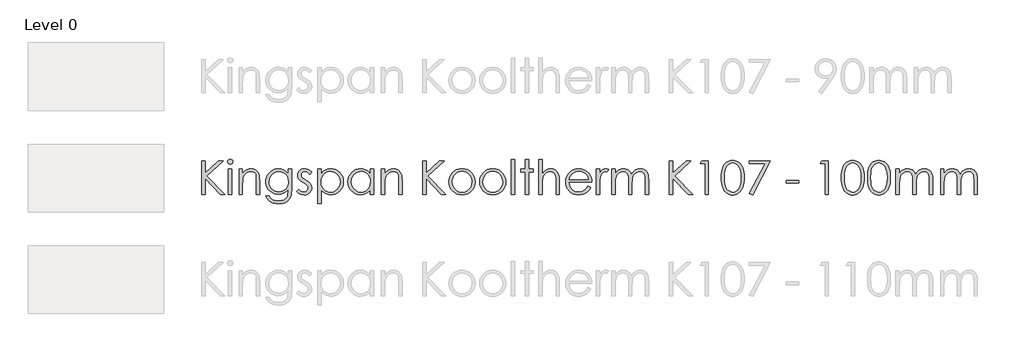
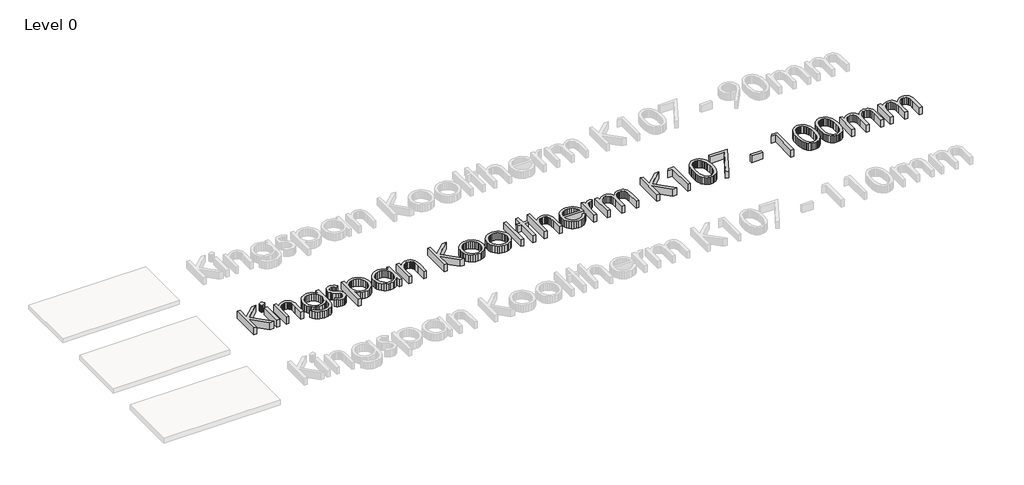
# One storey, part 5 of 13: 1 proxy.
"""IFC4 building model written with IfcOpenShell, lengths in millimetres."""

from ifc_helpers import new_model, si_unit, origin, origin_with_axes, place, context, project, spatial, polyline, outline, extrude, element, save

model = new_model("IFC4")

# Units and contexts
model_context = context("Model", 3, world=origin())
ifc_project = project(units=[si_unit("LENGTHUNIT", "METRE", prefix="MILLI")], contexts=[model_context])

# Site, building, storey
site = spatial("IfcSite", under=ifc_project)
building = spatial("IfcBuilding", under=site)
storey = spatial("IfcBuildingStorey", under=building, Name="Level 0", Elevation=0.0)

# Proxy
placement = place(None, origin())
element("IfcBuildingElementProxy", 1, Name="600mm KI_CenturyGothic", ObjectType="600mm KI_CenturyGothic", at=placement, inside=storey, context=model_context, shape_type="SweptSolid", body=[
    extrude(outline(polyline([(-3852.2663848, -8499.1034017), (-3792.944575, -8499.1034017), (-3792.944575, -8718.316027), (-3555.1938841, -8499.1034017), (-3471.6181051, -8499.1034017), (-3760.9664119, -8766.0515459), (-3441.9572002, -9092.3214999), (-3520.8984627, -9092.3214999), (-3792.944575, -8814.0960325), (-3792.944575, -9092.3214999), (-3852.2663848, -9092.3214999), (-3852.2663848, -8499.1034017)])), origin_with_axes(), (0.0, 0.0, 1.0), 150.0),
    extrude(outline(polyline([(-3348.1854852, -8469.4424967), (-3329.145347, -8472.7252792), (-3313.1176445, -8482.5736265), (-3302.226531, -8497.0178693), (-3298.5961598, -8514.088338), (-3302.226531, -8530.9270809), (-3313.1176445, -8545.2940817), (-3329.145347, -8555.142429), (-3348.1854852, -8558.4252115), (-3366.9938975, -8555.142429), (-3382.9443581, -8545.2940817), (-3393.8354717, -8530.9270809), (-3397.4658428, -8514.088338), (-3393.8354717, -8497.0178693), (-3382.9443581, -8482.5736265), (-3366.9938975, -8472.7252792), (-3348.1854852, -8469.4424967)])), origin_with_axes(), (0.0, 0.0, 1.0), 150.0),
    extrude(outline(polyline([(-3377.6919062, -8647.4079262), (-3318.3700964, -8647.4079262), (-3318.3700964, -9092.3214999), (-3377.6919062, -9092.3214999), (-3377.6919062, -8647.4079262)])), origin_with_axes(), (0.0, 0.0, 1.0), 150.0),
    extrude(outline(polyline([(-3189.8395084, -8647.4079262), (-3130.5176986, -8647.4079262), (-3130.5176986, -8726.5036726), (-3096.9946967, -8686.9944204), (-3060.0730495, -8659.303185), (-3019.7141359, -8642.9665147), (-2975.879335, -8637.5209579), (-2953.4357238, -8639.0995901), (-2932.2955704, -8643.8354865), (-2912.4588747, -8651.7286472), (-2893.9256368, -8662.7790723), (-2877.212412, -8676.5039994), (-2862.835756, -8692.4206667), (-2841.0921499, -8730.8292213), (-2833.6238199, -8755.2087086), (-2828.2892984, -8785.5551357), (-2824.0216812, -8864.1488095), (-2824.0216812, -9092.3214999), (-2883.343491, -9092.3214999), (-2883.343491, -8879.1337458), (-2883.343491, -8776.092998), (-2884.7290183, -8755.2956057), (-2889.8125035, -8737.2403023), (-2898.2849788, -8721.9270877), (-2910.1464442, -8709.355962), (-2924.7403432, -8699.5558909), (-2941.4101193, -8692.5558401), (-2980.977303, -8686.9557994), (-3005.3471351, -8689.1137461), (-3028.4038541, -8695.5875862), (-3050.1474602, -8706.3773197), (-3070.5779533, -8721.4829466), (-3088.6622225, -8739.7651482), (-3103.3671568, -8760.084606), (-3114.6927562, -8782.44132), (-3122.6390208, -8806.8352901), (-3128.5480292, -8853.9142525), (-3130.5176986, -8928.4141035), (-3130.5176986, -9092.3214999), (-3189.8395084, -9092.3214999), (-3189.8395084, -8647.4079262)])), origin_with_axes(), (0.0, 0.0, 1.0), 150.0),
    extrude(outline(polyline([(-2319.7862977, -8647.4079262), (-2260.4644879, -8647.4079262), (-2260.4644879, -8998.395301), (-2264.5196897, -9078.6496765), (-2269.588692, -9109.4499001), (-2276.6852953, -9134.0321474), (-2289.9371156, -9162.6454585), (-2307.2924139, -9187.7732271), (-2328.7511904, -9209.4154531), (-2354.3134448, -9227.5721366), (-2383.3226209, -9241.9343098), (-2415.122162, -9252.1930049), (-2449.7120682, -9258.348222), (-2487.0923395, -9260.3999611), (-2541.0458345, -9256.3833802), (-2589.206184, -9244.3336376), (-2630.260275, -9225.5059147), (-2662.8949946, -9201.1553932), (-2690.2000204, -9167.8061856), (-2715.2650299, -9121.9824048), (-2655.94322, -9121.9824048), (-2642.4355358, -9143.151524), (-2627.0933555, -9161.3951046), (-2609.9166791, -9176.7131468), (-2590.9055067, -9189.1056506), (-2569.7894914, -9198.6691682), (-2546.2982864, -9205.5002523), (-2492.1903075, -9210.9651195), (-2438.5071593, -9205.6354257), (-2415.083541, -9198.9733084), (-2393.93856, -9189.6463441), (-2359.6624492, -9165.6047903), (-2336.8567664, -9136.1176798), (-2329.3884364, -9117.4782342), (-2324.0539149, -9093.7697863), (-2319.7862977, -9031.1458835), (-2319.7862977, -9008.4367532), (-2354.757586, -9044.2190818), (-2396.6420279, -9070.6165148), (-2443.392712, -9086.8952536), (-2492.9627269, -9092.3214999), (-2522.4063889, -9090.4242447), (-2550.9521133, -9084.7324793), (-2578.5999001, -9075.2462036), (-2605.3497494, -9061.9654175), (-2630.1540674, -9045.4742634), (-2651.9652601, -9026.3568832), (-2670.7833277, -9004.6132772), (-2686.6082702, -8980.2434451), (-2699.1456025, -8953.9280817), (-2708.1008399, -8926.3478816), (-2713.4739824, -8897.5028447), (-2715.2650299, -8867.392971), (-2713.3967404, -8837.1044753), (-2707.7918722, -8807.8780563), (-2698.4504251, -8779.713714), (-2685.3723991, -8752.6114483), (-2668.9971079, -8727.4257483), (-2649.7638648, -8705.0111029), (-2627.67267, -8685.367512), (-2602.7235235, -8668.4949758), (-2575.9833294, -8654.943843), (-2548.5189922, -8645.2644624), (-2520.3305117, -8639.456834), (-2491.4178881, -8637.5209579), (-2444.5320306, -8642.4644421), (-2400.8903346, -8657.2948945), (-2359.6045177, -8683.8661218), (-2319.7862977, -8724.0319306), (-2319.7862977, -8647.4079262)]), holes=[polyline([(-2484.1571458, -8686.9557994), (-2529.0154023, -8692.9806707), (-2570.5908765, -8711.0552847), (-2606.2187212, -8739.7699758), (-2633.2340897, -8777.7150788), (-2650.2659375, -8821.9940208), (-2655.94322, -8869.7102292), (-2653.0080263, -8905.6229036), (-2644.2024452, -8938.2817613), (-2629.5264766, -8967.6868023), (-2608.9801206, -8993.8380266), (-2583.7606272, -9015.296803), (-2555.0652466, -9030.6245004), (-2522.8939786, -9039.8211189), (-2487.2468234, -9042.8866584), (-2451.3244937, -9039.845257), (-2419.1001219, -9030.7210528), (-2390.573708, -9015.5140459), (-2365.7452519, -8994.2242363), (-2345.6382095, -8967.9812872), (-2331.2760363, -8937.9148621), (-2322.6587323, -8904.024961), (-2319.7862977, -8866.3115838), (-2325.0773706, -8817.6105407), (-2340.9505892, -8774.3936754), (-2366.4983608, -8738.1672056), (-2400.8130926, -8710.4373492), (-2440.9982119, -8692.8261869), (-2484.1571458, -8686.9557994)])]), origin_with_axes(), (0.0, 0.0, 1.0), 150.0),
    extrude(outline(polyline([(-1904.5336289, -8698.6965743), (-1940.9918246, -8736.390641), (-1962.9575012, -8714.7628978), (-1984.6721416, -8699.3145098), (-2006.1357456, -8690.045477), (-2027.3483133, -8686.9557994), (-2052.181597, -8691.6289368), (-2073.2300256, -8705.6483489), (-2087.5970264, -8725.8857371), (-2092.3860267, -8749.212803), (-2088.4466878, -8770.7633042), (-2076.628671, -8791.2324183), (-2052.0657341, -8813.400855), (-2010.2006027, -8839.122421), (-1958.3326401, -8871.9888664), (-1939.8428507, -8887.8138088), (-1926.315856, -8903.2332311), (-1909.9791857, -8935.9065716), (-1904.5336289, -8972.4420092), (-1906.9474396, -8998.5884059), (-1914.1888714, -9022.6492701), (-1926.2579245, -9044.624602), (-1943.1545989, -9064.5144015), (-1963.6719892, -9081.0055557), (-1986.6031901, -9092.7849515), (-2011.9482016, -9099.852589), (-2039.7070237, -9102.2084682), (-2077.4397114, -9098.3270607), (-2113.3958344, -9086.6828383), (-2145.4512394, -9068.2027042), (-2171.4817731, -9043.8135617), (-2135.7959969, -9003.3387852), (-2114.0041146, -9024.9665283), (-2091.5749863, -9040.4149163), (-2068.5086121, -9049.6839491), (-2044.8049918, -9052.7736267), (-2013.637869, -9047.1349651), (-1987.4914724, -9030.2189802), (-1969.7644472, -9005.6560434), (-1963.8554388, -8977.0765256), (-1967.7561567, -8953.2860081), (-1979.4583106, -8932.2762005), (-2005.0253927, -8910.5712154), (-2050.2119275, -8883.7682622), (-2099.762632, -8853.1032121), (-2117.441381, -8837.9444814), (-2130.3890611, -8822.9016136), (-2146.3781427, -8790.7689666), (-2151.7078365, -8754.310771), (-2149.5305794, -8730.2643896), (-2142.9988078, -8708.3325063), (-2132.1125219, -8688.5151211), (-2116.8717217, -8670.812234), (-2098.309518, -8656.2473007), (-2077.4590218, -8645.8437769), (-2054.3202332, -8639.6016627), (-2028.8931521, -8637.5209579), (-1997.9481, -8641.3444339), (-1966.9064954, -8652.814862), (-1935.7683384, -8671.9322421), (-1904.5336289, -8698.6965743)])), origin_with_axes(), (0.0, 0.0, 1.0), 150.0),
    extrude(outline(polyline([(-1795.7769776, -8647.4079262), (-1736.4551678, -8647.4079262), (-1736.4551678, -8728.5119631), (-1700.9238754, -8688.2689124), (-1660.4490989, -8659.9211205), (-1614.9922173, -8643.1209986), (-1564.5146096, -8637.5209579), (-1520.0618732, -8641.7596094), (-1478.9305402, -8654.4755637), (-1441.1206107, -8675.668821), (-1406.6320845, -8705.3393811), (-1377.9077381, -8740.9768811), (-1357.3903478, -8780.070958), (-1345.0799137, -8822.6216116), (-1340.9764356, -8868.628842), (-1345.0412927, -8915.5291824), (-1357.235864, -8958.7508754), (-1377.5601494, -8998.293921), (-1406.014149, -9034.1583192), (-1440.2130179, -9063.9302594), (-1477.7719111, -9085.1959309), (-1518.6908288, -9097.9553339), (-1562.9697708, -9102.2084682), (-1612.6170277, -9096.743601), (-1658.0545988, -9080.3489992), (-1699.3211052, -9053.1019049), (-1736.4551678, -9015.07956), (-1736.4551678, -9250.5129928), (-1795.7769776, -9250.5129928), (-1795.7769776, -8647.4079262)]), holes=[polyline([(-1568.5311905, -8686.9557994), (-1602.5852307, -8690.2530647), (-1633.8392507, -8700.1448607), (-1662.2932503, -8716.6311872), (-1687.9472295, -8739.7120444), (-1709.1694525, -8767.6977647), (-1724.3281832, -8798.8986808), (-1733.4234216, -8833.3147926), (-1736.4551678, -8870.9461002), (-1731.048232, -8919.8016272), (-1714.8274246, -8963.4819442), (-1688.5265441, -9000.3263495), (-1652.8793888, -9028.6741414), (-1611.4390881, -9046.7487554), (-1567.7587711, -9052.7736267), (-1525.0632888, -9046.7101344), (-1485.0326535, -9028.5196576), (-1450.2544701, -8999.4187567), (-1423.3163435, -8960.6239924), (-1406.05277, -8915.9588407), (-1400.2982454, -8869.2467775), (-1405.9948385, -8822.3029886), (-1423.0846177, -8777.8695627), (-1449.8103289, -8739.5189395), (-1484.414718, -8710.8235589), (-1524.7157001, -8692.9227393), (-1568.5311905, -8686.9557994)])]), origin_with_axes(), (0.0, 0.0, 1.0), 150.0),
    extrude(outline(polyline([(-807.0801472, -8647.4079262), (-807.0801472, -9092.3214999), (-866.401957, -9092.3214999), (-866.401957, -9016.4699149), (-903.4780882, -9054.3184655), (-944.8797679, -9081.0441767), (-990.4525125, -9096.9173953), (-1040.0418379, -9102.2084682), (-1084.3159523, -9097.9553339), (-1125.2203871, -9085.1959309), (-1162.7551422, -9063.9302594), (-1196.9202178, -9034.1583192), (-1225.340424, -8998.293921), (-1245.6405713, -8958.7508754), (-1257.8206597, -8915.5291824), (-1261.8806892, -8868.628842), (-1257.7820388, -8822.6216116), (-1245.4860875, -8780.070958), (-1224.9928353, -8740.9768811), (-1196.3022822, -8705.3393811), (-1161.8475494, -8675.668821), (-1124.061758, -8654.4755637), (-1082.9449079, -8641.7596094), (-1038.4969991, -8637.5209579), (-987.7490446, -8643.1209986), (-942.0990581, -8659.9211205), (-921.2051134, -8672.6081091), (-901.6242816, -8688.2689124), (-866.401957, -8728.5119631), (-866.401957, -8647.4079262), (-807.0801472, -8647.4079262)]), holes=[polyline([(-1034.3259343, -8686.9557994), (-1078.1414247, -8692.9227393), (-1118.4424068, -8710.8235589), (-1153.0467959, -8739.5189395), (-1179.7725071, -8777.8695627), (-1196.8622863, -8822.3029886), (-1202.5588794, -8869.2467775), (-1196.8043548, -8915.9588407), (-1179.5407813, -8960.6239924), (-1152.6026548, -8999.4187567), (-1117.8244713, -9028.5196576), (-1077.6779731, -9046.7101344), (-1034.6349021, -9052.7736267), (-991.0125165, -9046.7487554), (-949.7460102, -9028.6741414), (-914.2726493, -9000.3263495), (-888.0297002, -8963.4819442), (-871.8088928, -8919.8016272), (-866.401957, -8870.9461002), (-869.4337032, -8833.3147926), (-878.5289416, -8798.8986808), (-893.6876723, -8767.6977647), (-914.9098953, -8739.7120444), (-940.5638746, -8716.6311872), (-969.0178742, -8700.1448607), (-1000.2718941, -8690.2530647), (-1034.3259343, -8686.9557994)])]), origin_with_axes(), (0.0, 0.0, 1.0), 150.0),
    extrude(outline(polyline([(-668.662591, -8647.4079262), (-609.3407811, -8647.4079262), (-609.3407811, -8726.5036726), (-575.8177792, -8686.9944204), (-538.896132, -8659.303185), (-498.5372184, -8642.9665147), (-454.7024175, -8637.5209579), (-432.2588064, -8639.0995901), (-411.1186529, -8643.8354865), (-391.2819572, -8651.7286472), (-372.7487193, -8662.7790723), (-356.0354946, -8676.5039994), (-341.6588385, -8692.4206667), (-319.9152324, -8730.8292213), (-312.4469024, -8755.2087086), (-307.1123809, -8785.5551357), (-302.8447637, -8864.1488095), (-302.8447637, -9092.3214999), (-362.1665735, -9092.3214999), (-362.1665735, -8879.1337458), (-362.1665735, -8776.092998), (-363.5521008, -8755.2956057), (-368.635586, -8737.2403023), (-377.1080613, -8721.9270877), (-388.9695267, -8709.355962), (-403.5634257, -8699.5558909), (-420.2332018, -8692.5558401), (-459.8003855, -8686.9557994), (-484.1702176, -8689.1137461), (-507.2269366, -8695.5875862), (-528.9705427, -8706.3773197), (-549.4010358, -8721.4829466), (-567.485305, -8739.7651482), (-582.1902393, -8760.084606), (-593.5158387, -8782.44132), (-601.4621033, -8806.8352901), (-607.3711117, -8853.9142525), (-609.3407811, -8928.4141035), (-609.3407811, -9092.3214999), (-668.662591, -9092.3214999), (-668.662591, -8647.4079262)])), origin_with_axes(), (0.0, 0.0, 1.0), 150.0),
    extrude(outline(polyline([(62.9730635, -8499.1034017), (122.2948734, -8499.1034017), (122.2948734, -8718.316027), (360.0455643, -8499.1034017), (443.6213432, -8499.1034017), (154.2730365, -8766.0515459), (473.2822481, -9092.3214999), (394.3409856, -9092.3214999), (122.2948734, -8814.0960325), (122.2948734, -9092.3214999), (62.9730635, -9092.3214999), (62.9730635, -8499.1034017)])), origin_with_axes(), (0.0, 0.0, 1.0), 150.0),
    extrude(outline(polyline([(760.1588128, -8637.5209579), (809.4681362, -8642.1458191), (854.3553585, -8656.0204025), (894.8204798, -8679.1447083), (930.8635, -8711.5187363), (957.7630055, -8746.7507161), (976.9769381, -8785.091684), (988.5052976, -8826.54164), (992.3480841, -8871.1005841), (988.283227, -8915.9153921), (976.0886558, -8957.8239721), (955.7643703, -8996.8263241), (927.3103707, -9032.9224481), (892.4742558, -9063.2350819), (853.0036246, -9084.8869632), (808.8984769, -9097.8780919), (760.1588128, -9102.2084682), (711.2839754, -9097.8780919), (667.0822753, -9084.8869632), (627.5537126, -9063.2350819), (592.6982872, -9032.9224481), (564.2442876, -8996.8263241), (543.9200022, -8957.8239721), (531.7254309, -8915.9153921), (527.6605738, -8871.1005841), (531.5033603, -8826.7347449), (543.0317198, -8785.4006518), (562.2456524, -8747.0983049), (589.145158, -8711.8277041), (625.2074886, -8679.3185026), (665.7305413, -8656.0976445), (710.7143161, -8642.1651295), (760.1588128, -8637.5209579)]), holes=[polyline([(760.004329, -8686.9557994), (725.7282181, -8690.3303067), (693.9624704, -8700.4538284), (664.7070856, -8717.3263647), (637.962064, -8740.9479154), (615.6584538, -8769.3584664), (599.7273037, -8800.5980035), (590.1686137, -8834.6665266), (586.9823836, -8871.5640357), (592.7948396, -8919.2995546), (610.2322075, -8963.6364281), (637.5758543, -9001.4270471), (673.1071466, -9029.5238028), (714.6439998, -9046.9611707), (760.004329, -9052.7736267), (805.3646581, -9046.9611707), (846.9015113, -9029.5238028), (882.4328037, -9001.4270471), (909.7764504, -8963.6364281), (927.2138183, -8919.2995546), (933.0262743, -8871.5640357), (929.8255614, -8834.6665266), (920.2234227, -8800.5980035), (904.2198583, -8769.3584664), (881.8148681, -8740.9479154), (854.9974321, -8717.3263647), (825.7565303, -8700.4538284), (794.0921625, -8690.3303067), (760.004329, -8686.9557994)])]), origin_with_axes(), (0.0, 0.0, 1.0), 150.0),
    extrude(outline(polyline([(1303.9420695, -8637.5209579), (1353.2513929, -8642.1458191), (1398.1386152, -8656.0204025), (1438.6037365, -8679.1447083), (1474.6467567, -8711.5187363), (1501.5462622, -8746.7507161), (1520.7601948, -8785.091684), (1532.2885543, -8826.54164), (1536.1313408, -8871.1005841), (1532.0664837, -8915.9153921), (1519.8719125, -8957.8239721), (1499.547627, -8996.8263241), (1471.0936274, -9032.9224481), (1436.2575126, -9063.2350819), (1396.7868813, -9084.8869632), (1352.6817336, -9097.8780919), (1303.9420695, -9102.2084682), (1255.0672321, -9097.8780919), (1210.865532, -9084.8869632), (1171.3369693, -9063.2350819), (1136.4815439, -9032.9224481), (1108.0275443, -8996.8263241), (1087.7032589, -8957.8239721), (1075.5086876, -8915.9153921), (1071.4438305, -8871.1005841), (1075.286617, -8826.7347449), (1086.8149766, -8785.4006518), (1106.0289091, -8747.0983049), (1132.9284147, -8711.8277041), (1168.9907453, -8679.3185026), (1209.5137981, -8656.0976445), (1254.4975728, -8642.1651295), (1303.9420695, -8637.5209579)]), holes=[polyline([(1303.7875857, -8686.9557994), (1269.5114748, -8690.3303067), (1237.7457271, -8700.4538284), (1208.4903423, -8717.3263647), (1181.7453207, -8740.9479154), (1159.4417105, -8769.3584664), (1143.5105604, -8800.5980035), (1133.9518704, -8834.6665266), (1130.7656404, -8871.5640357), (1136.5780963, -8919.2995546), (1154.0154643, -8963.6364281), (1181.359111, -9001.4270471), (1216.8904033, -9029.5238028), (1258.4272565, -9046.9611707), (1303.7875857, -9052.7736267), (1349.1479149, -9046.9611707), (1390.684768, -9029.5238028), (1426.2160604, -9001.4270471), (1453.5597071, -8963.6364281), (1470.997075, -8919.2995546), (1476.809531, -8871.5640357), (1473.6088181, -8834.6665266), (1464.0066795, -8800.5980035), (1448.003115, -8769.3584664), (1425.5981249, -8740.9479154), (1398.7806889, -8717.3263647), (1369.539787, -8700.4538284), (1337.8754193, -8690.3303067), (1303.7875857, -8686.9557994)])]), origin_with_axes(), (0.0, 0.0, 1.0), 150.0),
    extrude(outline(polyline([(1635.0010238, -8479.3294651), (1694.3228337, -8479.3294651), (1694.3228337, -9092.3214999), (1635.0010238, -9092.3214999), (1635.0010238, -8479.3294651)])), origin_with_axes(), (0.0, 0.0, 1.0), 150.0),
    extrude(outline(polyline([(1882.1752314, -8479.3294651), (1941.4970413, -8479.3294651), (1941.4970413, -8647.4079262), (2020.5927877, -8647.4079262), (2020.5927877, -8696.8427677), (1941.4970413, -8696.8427677), (1941.4970413, -9092.3214999), (1882.1752314, -9092.3214999), (1882.1752314, -8696.8427677), (1803.079485, -8696.8427677), (1803.079485, -8647.4079262), (1882.1752314, -8647.4079262), (1882.1752314, -8479.3294651)])), origin_with_axes(), (0.0, 0.0, 1.0), 150.0),
    extrude(outline(polyline([(2119.4624707, -8479.3294651), (2178.7842806, -8479.3294651), (2178.7842806, -8728.0485114), (2212.5583188, -8688.3461544), (2249.6151394, -8660.0756044), (2289.9161216, -8643.1596195), (2333.4226442, -8637.5209579), (2355.8662553, -8639.0995901), (2377.0064088, -8643.8354865), (2396.8431044, -8651.7286472), (2415.3763424, -8662.7790723), (2432.0895671, -8676.4895166), (2446.4662232, -8692.3627352), (2468.2098293, -8730.5974955), (2475.6781593, -8754.9045684), (2481.0126808, -8785.2654784), (2485.280298, -8864.1488095), (2485.280298, -9092.3214999), (2425.9584882, -9092.3214999), (2425.9584882, -8879.1337458), (2424.5681332, -8814.752589), (2420.3970685, -8776.092998), (2406.879729, -8737.2403023), (2397.1665551, -8721.9270877), (2385.4837117, -8709.355962), (2371.840854, -8699.5558909), (2356.2476374, -8692.5558401), (2319.2101273, -8686.9557994), (2296.3416854, -8689.1137461), (2274.6994594, -8695.5875862), (2254.2834492, -8706.3773197), (2235.0936547, -8721.4829466), (2218.1052556, -8739.7651482), (2204.2934312, -8760.084606), (2193.6581816, -8782.44132), (2186.1995068, -8806.8352901), (2180.6380871, -8853.6825267), (2178.7842806, -8928.4141035), (2178.7842806, -9092.3214999), (2119.4624707, -9092.3214999), (2119.4624707, -8479.3294651)])), origin_with_axes(), (0.0, 0.0, 1.0), 150.0),
    extrude(outline(polyline([(2991.0605203, -8944.0169753), (3038.950523, -8969.1978477), (3013.3255094, -9011.0822896), (2984.0315038, -9044.0452875), (2950.952643, -9069.1296074), (2913.9730643, -9087.3780157), (2872.4941426, -9098.5008551), (2825.9172528, -9102.2084682), (2774.4258447, -9097.7767119), (2728.8627554, -9084.481443), (2689.227985, -9062.3226615), (2655.5215335, -9031.3003674), (2628.6220279, -8994.6973431), (2609.4080954, -8955.7963712), (2597.8797358, -8914.5974515), (2594.0369493, -8871.1005841), (2597.3197318, -8830.2202874), (2607.1680791, -8791.618628), (2623.5819913, -8755.2956057), (2646.5614684, -8721.2512207), (2682.7493173, -8684.6192308), (2724.5758277, -8658.4535236), (2772.0409998, -8642.7540993), (2825.1448334, -8637.5209579), (2879.7935059, -8642.8892727), (2928.6490329, -8658.9942172), (2971.7114143, -8685.8357913), (3008.9806503, -8723.4139951), (3030.4539096, -8755.585263), (3045.9022976, -8791.541386), (3055.3258143, -8831.2823641), (3058.7244596, -8874.8081972), (2653.3587591, -8874.8081972), (2657.095338, -8912.0629503), (2666.6057518, -8945.8128504), (2681.8900007, -8976.0578975), (2702.9480845, -9002.7980916), (2728.3124066, -9024.6623882), (2756.5153699, -9040.2797429), (2787.5569744, -9049.6501557), (2821.4372203, -9052.7736267), (2854.9602222, -9049.761191), (2887.5563208, -9040.7238841), (2917.2944677, -9026.6851615), (2942.2436143, -9008.668479), (2965.725164, -8982.5027719), (2991.0605203, -8944.0169753)]), holes=[polyline([(2999.4026498, -8825.3733557), (2984.9777175, -8782.8516678), (2965.1844704, -8749.8307385), (2939.0766947, -8724.3022774), (2905.7081767, -8704.257994), (2867.7630738, -8691.2813481), (2827.9255433, -8686.9557994), (2795.503239, -8689.6689226), (2765.4368139, -8697.808292), (2737.726268, -8711.3739077), (2712.3716012, -8730.3657696), (2695.8321708, -8748.179692), (2681.4362043, -8769.9522638), (2669.1837016, -8795.683485), (2659.0746627, -8825.3733557), (2999.4026498, -8825.3733557)])]), origin_with_axes(), (0.0, 0.0, 1.0), 150.0),
    extrude(outline(polyline([(3137.820206, -8647.4079262), (3197.1420159, -8647.4079262), (3197.1420159, -8711.8277041), (3222.6897875, -8678.7874643), (3249.589293, -8655.6728138), (3277.7632906, -8642.0589219), (3307.1345382, -8637.5209579), (3330.4616041, -8641.305813), (3355.3335087, -8652.6603781), (3325.8270877, -8694.6799934), (3297.2475699, -8686.9557994), (3270.8308265, -8692.9034288), (3245.3409863, -8710.7463169), (3223.2884125, -8741.1023993), (3207.183468, -8784.5896114), (3199.6523789, -8842.7141712), (3197.1420159, -8940.1548783), (3197.1420159, -9092.3214999), (3137.820206, -9092.3214999), (3137.820206, -8647.4079262)])), origin_with_axes(), (0.0, 0.0, 1.0), 150.0),
    extrude(outline(polyline([(3414.6553185, -8647.4079262), (3473.9771284, -8647.4079262), (3473.9771284, -8723.5684789), (3503.5607913, -8687.0716623), (3533.9168737, -8661.9294109), (3577.3268439, -8643.6230712), (3622.8995884, -8637.5209579), (3653.7384329, -8640.668567), (3682.9165757, -8650.1113941), (3708.6767627, -8664.7873627), (3729.2617397, -8683.634396), (3746.0425511, -8709.0663047), (3760.3902414, -8743.4968994), (3775.16759, -8719.0981017), (3791.6925376, -8697.808292), (3809.965084, -8679.6274704), (3829.9852293, -8664.5556369), (3851.2798666, -8652.7279648), (3873.375889, -8644.2796277), (3896.2732965, -8639.2106253), (3919.9720892, -8637.5209579), (3962.3006723, -8643.3334139), (3981.4952943, -8650.5989839), (3999.3768034, -8660.7707818), (4015.4914031, -8673.53984), (4029.385297, -8688.5971907), (4050.5109676, -8725.5767694), (4057.8103309, -8748.9521114), (4063.0241619, -8777.5219739), (4067.1952266, -8850.2452603), (4067.1952266, -9092.3214999), (4007.8734168, -9092.3214999), (4007.8734168, -8846.6921311), (4005.4209852, -8785.5744462), (3998.0636904, -8747.1272706), (3984.7587663, -8722.6608861), (3964.4634466, -8703.4855746), (3938.3942919, -8691.0882432), (3907.7678627, -8686.9557994), (3888.1194443, -8688.5054659), (3869.3399976, -8693.1544651), (3834.3880198, -8711.7504621), (3805.6540182, -8740.6968791), (3785.8800816, -8777.9468046), (3779.1889985, -8802.1042213), (3774.4096535, -8833.1747916), (3770.5861775, -8916.0553931), (3770.5861775, -9092.3214999), (3711.2643677, -9092.3214999), (3711.2643677, -8861.9860352), (3708.850557, -8793.530366), (3701.6091252, -8751.2983353), (3688.3621325, -8725.0553863), (3667.9316394, -8704.5669617), (3641.6114484, -8691.35859), (3610.6953619, -8686.9557994), (3573.7544042, -8692.9999812), (3539.2465676, -8711.1325266), (3510.2808401, -8739.499629), (3489.9662099, -8776.2474819), (3477.9743988, -8828.0768236), (3473.9771284, -8901.6883923), (3473.9771284, -9092.3214999), (3414.6553185, -9092.3214999), (3414.6553185, -8647.4079262)])), origin_with_axes(), (0.0, 0.0, 1.0), 150.0),
    extrude(outline(polyline([(4433.0130538, -8499.1034017), (4492.3348637, -8499.1034017), (4492.3348637, -8718.316027), (4730.0855546, -8499.1034017), (4813.6613335, -8499.1034017), (4524.3130268, -8766.0515459), (4843.3222385, -9092.3214999), (4764.3809759, -9092.3214999), (4492.3348637, -8814.0960325), (4492.3348637, -9092.3214999), (4433.0130538, -9092.3214999), (4433.0130538, -8499.1034017)])), origin_with_axes(), (0.0, 0.0, 1.0), 150.0),
    extrude(outline(polyline([(5010.6282802, -8499.1034017), (5125.1008351, -8499.1034017), (5125.1008351, -9092.3214999), (5065.7790253, -9092.3214999), (5065.7790253, -8548.5382432), (4976.7963106, -8548.5382432), (5010.6282802, -8499.1034017)])), origin_with_axes(), (0.0, 0.0, 1.0), 150.0),
    extrude(outline(polyline([(5352.5011061, -8795.8669347), (5354.0797383, -8741.4355052), (5358.8156347, -8693.5406748), (5366.7087954, -8652.1824436), (5377.7592204, -8617.3608116), (5391.6869077, -8587.7192172), (5408.2118552, -8561.9010988), (5427.334063, -8539.9064564), (5449.053531, -8521.73529), (5472.747496, -8507.5082902), (5497.793195, -8497.3461475), (5524.190628, -8491.2488619), (5551.9397949, -8489.2164334), (5580.1427582, -8491.2633448), (5606.974677, -8497.404079), (5632.4355515, -8507.638636), (5656.5253815, -8521.9670159), (5678.7083011, -8540.3843909), (5698.4484443, -8562.8859335), (5715.7458112, -8589.4716437), (5730.6004018, -8620.1415214), (5742.5294539, -8655.6583309), (5751.0502054, -8696.7848363), (5756.1626563, -8743.5210375), (5757.8668066, -8795.8669347), (5756.1867944, -8848.0535203), (5751.1467578, -8894.6207548), (5742.7466968, -8935.5686382), (5730.9866115, -8970.8971704), (5716.2768496, -9001.4222195), (5699.0277589, -9027.9596535), (5679.2393394, -9050.5094723), (5656.9115912, -9069.071676), (5632.6527944, -9083.5690226), (5607.0712295, -9093.9242701), (5580.1668963, -9100.1374187), (5551.9397949, -9102.2084682), (5524.2147661, -9100.2001778), (5497.8897474, -9094.1753064), (5472.964739, -9084.1338543), (5449.4397407, -9070.0758212), (5427.8651013, -9052.0398282), (5408.7911698, -9030.0644964), (5392.2179461, -9004.1498255), (5378.1454301, -8974.2958158), (5366.9260384, -8939.2762513), (5358.9121871, -8897.8649163), (5354.1038764, -8850.0618107), (5352.5011061, -8795.8669347)]), holes=[polyline([(5411.8229159, -8795.7124508), (5416.206396, -8884.038609), (5421.6857461, -8919.0195525), (5429.3568363, -8947.8790723), (5439.1713903, -8972.1185586), (5451.0811319, -8993.2394015), (5465.0860611, -9011.2416011), (5481.1861779, -9026.1251574), (5516.4857445, -9046.1115094), (5534.8886366, -9051.1080973), (5553.7936014, -9052.7736267), (5572.7854634, -9051.1418907), (5591.1400794, -9046.2466828), (5625.9375733, -9026.665851), (5641.694929, -9011.9898824), (5655.4439943, -8994.0697524), (5667.1847692, -8972.9054608), (5676.9172536, -8948.4970078), (5686.3793912, -8915.1381451), (5693.138061, -8878.5544313), (5698.5449967, -8795.7124508), (5693.7173755, -8714.1063413), (5687.682849, -8679.4150551), (5679.2345118, -8648.7982811), (5668.652366, -8622.135329), (5656.2164137, -8599.3055082), (5641.9266548, -8580.3088186), (5625.7830894, -8565.1452603), (5590.7152487, -8545.2747712), (5572.4861509, -8540.307149), (5553.7936014, -8538.6512749), (5534.7776014, -8540.307149), (5516.3505711, -8545.2747712), (5481.2634199, -8565.1452603), (5465.3177869, -8579.9564022), (5451.3900996, -8597.8958428), (5439.480358, -8618.9635819), (5429.5885621, -8643.1596195), (5421.8160919, -8672.0143117), (5416.2643275, -8707.0580143), (5411.8229159, -8795.7124508)])]), origin_with_axes(), (0.0, 0.0, 1.0), 150.0),
    extrude(outline(polyline([(5846.8495213, -8499.1034017), (6222.5543169, -8499.1034017), (5906.1713311, -9102.2084682), (5852.2564571, -9079.8083056), (6130.9453762, -8548.5382432), (5846.8495213, -8548.5382432), (5846.8495213, -8499.1034017)])), origin_with_axes(), (0.0, 0.0, 1.0), 150.0),
    extrude(outline(polyline([(6499.3894294, -8845.1472923), (6726.7897004, -8845.1472923), (6726.7897004, -8894.5821338), (6499.3894294, -8894.5821338), (6499.3894294, -8845.1472923)])), origin_with_axes(), (0.0, 0.0, 1.0), 150.0),
    extrude(outline(polyline([(7136.3264656, -8499.1034017), (7250.7990205, -8499.1034017), (7250.7990205, -9092.3214999), (7191.4772106, -9092.3214999), (7191.4772106, -8548.5382432), (7102.4944959, -8548.5382432), (7136.3264656, -8499.1034017)])), origin_with_axes(), (0.0, 0.0, 1.0), 150.0),
    extrude(outline(polyline([(7478.1992914, -8795.8669347), (7479.7779236, -8741.4355052), (7484.51382, -8693.5406748), (7492.4069808, -8652.1824436), (7503.4574058, -8617.3608116), (7517.3850931, -8587.7192172), (7533.9100406, -8561.9010988), (7553.0322483, -8539.9064564), (7574.7517163, -8521.73529), (7598.4456813, -8507.5082902), (7623.4913804, -8497.3461475), (7649.8888133, -8491.2488619), (7677.6379802, -8489.2164334), (7705.8409435, -8491.2633448), (7732.6728624, -8497.404079), (7758.1337368, -8507.638636), (7782.2235668, -8521.9670159), (7804.4064864, -8540.3843909), (7824.1466297, -8562.8859335), (7841.4439966, -8589.4716437), (7856.2985871, -8620.1415214), (7868.2276392, -8655.6583309), (7876.7483907, -8696.7848363), (7881.8608416, -8743.5210375), (7883.5649919, -8795.8669347), (7881.8849797, -8848.0535203), (7876.8449431, -8894.6207548), (7868.4448822, -8935.5686382), (7856.6847968, -8970.8971704), (7841.9750349, -9001.4222195), (7824.7259442, -9027.9596535), (7804.9375247, -9050.5094723), (7782.6097765, -9069.071676), (7758.3509797, -9083.5690226), (7732.7694148, -9093.9242701), (7705.8650816, -9100.1374187), (7677.6379802, -9102.2084682), (7649.9129514, -9100.2001778), (7623.5879328, -9094.1753064), (7598.6629243, -9084.1338543), (7575.137926, -9070.0758212), (7553.5632867, -9052.0398282), (7534.4893551, -9030.0644964), (7517.9161314, -9004.1498255), (7503.8436155, -8974.2958158), (7492.6242237, -8939.2762513), (7484.6103725, -8897.8649163), (7479.8020617, -8850.0618107), (7478.1992914, -8795.8669347)]), holes=[polyline([(7537.5211013, -8795.7124508), (7541.9045814, -8884.038609), (7547.3839315, -8919.0195525), (7555.0550216, -8947.8790723), (7564.8695756, -8972.1185586), (7576.7793172, -8993.2394015), (7590.7842464, -9011.2416011), (7606.8843633, -9026.1251574), (7642.1839298, -9046.1115094), (7660.586822, -9051.1080973), (7679.4917868, -9052.7736267), (7698.4836487, -9051.1418907), (7716.8382647, -9046.2466828), (7751.6357586, -9026.665851), (7767.3931143, -9011.9898824), (7781.1421796, -8994.0697524), (7792.8829545, -8972.9054608), (7802.6154389, -8948.4970078), (7812.0775766, -8915.1381451), (7818.8362463, -8878.5544313), (7824.2431821, -8795.7124508), (7819.4155608, -8714.1063413), (7813.3810343, -8679.4150551), (7804.9326971, -8648.7982811), (7794.3505514, -8622.135329), (7781.914599, -8599.3055082), (7767.6248402, -8580.3088186), (7751.4812747, -8565.1452603), (7716.413434, -8545.2747712), (7698.1843362, -8540.307149), (7679.4917868, -8538.6512749), (7660.4757867, -8540.307149), (7642.0487564, -8545.2747712), (7606.9616052, -8565.1452603), (7591.0159723, -8579.9564022), (7577.088285, -8597.8958428), (7565.1785434, -8618.9635819), (7555.2867474, -8643.1596195), (7547.5142772, -8672.0143117), (7541.9625128, -8707.0580143), (7537.5211013, -8795.7124508)])]), origin_with_axes(), (0.0, 0.0, 1.0), 150.0),
    extrude(outline(polyline([(7942.8868017, -8795.8669347), (7944.4654339, -8741.4355052), (7949.2013303, -8693.5406748), (7957.094491, -8652.1824436), (7968.1449161, -8617.3608116), (7982.0726034, -8587.7192172), (7998.5975509, -8561.9010988), (8017.7197586, -8539.9064564), (8039.4392266, -8521.73529), (8063.1331916, -8507.5082902), (8088.1788906, -8497.3461475), (8114.5763236, -8491.2488619), (8142.3254905, -8489.2164334), (8170.5284538, -8491.2633448), (8197.3603726, -8497.404079), (8222.8212471, -8507.638636), (8246.9110771, -8521.9670159), (8269.0939967, -8540.3843909), (8288.8341399, -8562.8859335), (8306.1315069, -8589.4716437), (8320.9860974, -8620.1415214), (8332.9151495, -8655.6583309), (8341.435901, -8696.7848363), (8346.5483519, -8743.5210375), (8348.2525022, -8795.8669347), (8346.57249, -8848.0535203), (8341.5324534, -8894.6207548), (8333.1323925, -8935.5686382), (8321.3723071, -8970.8971704), (8306.6625452, -9001.4222195), (8289.4134545, -9027.9596535), (8269.625035, -9050.5094723), (8247.2972868, -9069.071676), (8223.03849, -9083.5690226), (8197.4569251, -9093.9242701), (8170.5525919, -9100.1374187), (8142.3254905, -9102.2084682), (8114.6004617, -9100.2001778), (8088.2754431, -9094.1753064), (8063.3504346, -9084.1338543), (8039.8254363, -9070.0758212), (8018.2507969, -9052.0398282), (7999.1768654, -9030.0644964), (7982.6036417, -9004.1498255), (7968.5311258, -8974.2958158), (7957.311734, -8939.2762513), (7949.2978827, -8897.8649163), (7944.489572, -8850.0618107), (7942.8868017, -8795.8669347)]), holes=[polyline([(8002.2086116, -8795.7124508), (8006.5920916, -8884.038609), (8012.0714418, -8919.0195525), (8019.7425319, -8947.8790723), (8029.5570859, -8972.1185586), (8041.4668275, -8993.2394015), (8055.4717567, -9011.2416011), (8071.5718736, -9026.1251574), (8106.8714401, -9046.1115094), (8125.2743323, -9051.1080973), (8144.179297, -9052.7736267), (8163.171159, -9051.1418907), (8181.525775, -9046.2466828), (8216.3232689, -9026.665851), (8232.0806246, -9011.9898824), (8245.8296899, -8994.0697524), (8257.5704648, -8972.9054608), (8267.3029492, -8948.4970078), (8276.7650868, -8915.1381451), (8283.5237566, -8878.5544313), (8288.9306924, -8795.7124508), (8284.1030711, -8714.1063413), (8278.0685446, -8679.4150551), (8269.6202074, -8648.7982811), (8259.0380616, -8622.135329), (8246.6021093, -8599.3055082), (8232.3123504, -8580.3088186), (8216.168785, -8565.1452603), (8181.1009443, -8545.2747712), (8162.8718465, -8540.307149), (8144.179297, -8538.6512749), (8125.163297, -8540.307149), (8106.7362667, -8545.2747712), (8071.6491155, -8565.1452603), (8055.7034825, -8579.9564022), (8041.7757953, -8597.8958428), (8029.8660536, -8618.9635819), (8019.9742577, -8643.1596195), (8012.2017875, -8672.0143117), (8006.6500231, -8707.0580143), (8002.2086116, -8795.7124508)])]), origin_with_axes(), (0.0, 0.0, 1.0), 150.0),
    extrude(outline(polyline([(8447.1221852, -8647.4079262), (8506.4439951, -8647.4079262), (8506.4439951, -8723.5684789), (8536.027658, -8687.0716623), (8566.3837404, -8661.9294109), (8609.7937106, -8643.6230712), (8655.3664551, -8637.5209579), (8686.2052996, -8640.668567), (8715.3834424, -8650.1113941), (8741.1436294, -8664.7873627), (8761.7286063, -8683.634396), (8778.5094178, -8709.0663047), (8792.8571081, -8743.4968994), (8807.6344567, -8719.0981017), (8824.1594042, -8697.808292), (8842.4319506, -8679.6274704), (8862.4520959, -8664.5556369), (8883.7467332, -8652.7279648), (8905.8427557, -8644.2796277), (8928.7401632, -8639.2106253), (8952.4389559, -8637.5209579), (8994.7675389, -8643.3334139), (9013.962161, -8650.5989839), (9031.8436701, -8660.7707818), (9047.9582698, -8673.53984), (9061.8521637, -8688.5971907), (9082.9778343, -8725.5767694), (9090.2771976, -8748.9521114), (9095.4910285, -8777.5219739), (9099.6620933, -8850.2452603), (9099.6620933, -9092.3214999), (9040.3402835, -9092.3214999), (9040.3402835, -8846.6921311), (9037.8878519, -8785.5744462), (9030.5305571, -8747.1272706), (9017.225633, -8722.6608861), (8996.9303133, -8703.4855746), (8970.8611585, -8691.0882432), (8940.2347294, -8686.9557994), (8920.5863109, -8688.5054659), (8901.8068643, -8693.1544651), (8866.8548865, -8711.7504621), (8838.1208849, -8740.6968791), (8818.3469483, -8777.9468046), (8811.6558652, -8802.1042213), (8806.8765202, -8833.1747916), (8803.0530442, -8916.0553931), (8803.0530442, -9092.3214999), (8743.7312343, -9092.3214999), (8743.7312343, -8861.9860352), (8741.3174237, -8793.530366), (8734.0759919, -8751.2983353), (8720.8289992, -8725.0553863), (8700.3985061, -8704.5669617), (8674.0783151, -8691.35859), (8643.1622286, -8686.9557994), (8606.2212709, -8692.9999812), (8571.7134342, -8711.1325266), (8542.7477068, -8739.499629), (8522.4330766, -8776.2474819), (8510.4412654, -8828.0768236), (8506.4439951, -8901.6883923), (8506.4439951, -9092.3214999), (8447.1221852, -9092.3214999), (8447.1221852, -8647.4079262)])), origin_with_axes(), (0.0, 0.0, 1.0), 150.0),
    extrude(outline(polyline([(9238.0796495, -8647.4079262), (9297.4014594, -8647.4079262), (9297.4014594, -8723.5684789), (9326.9851223, -8687.0716623), (9357.3412047, -8661.9294109), (9400.7511749, -8643.6230712), (9446.3239194, -8637.5209579), (9477.1627639, -8640.668567), (9506.3409067, -8650.1113941), (9532.1010937, -8664.7873627), (9552.6860706, -8683.634396), (9569.4668821, -8709.0663047), (9583.8145724, -8743.4968994), (9598.591921, -8719.0981017), (9615.1168685, -8697.808292), (9633.389415, -8679.6274704), (9653.4095602, -8664.5556369), (9674.7041975, -8652.7279648), (9696.80022, -8644.2796277), (9719.6976275, -8639.2106253), (9743.3964202, -8637.5209579), (9785.7250032, -8643.3334139), (9804.9196253, -8650.5989839), (9822.8011344, -8660.7707818), (9838.9157341, -8673.53984), (9852.809628, -8688.5971907), (9873.9352986, -8725.5767694), (9881.2346619, -8748.9521114), (9886.4484928, -8777.5219739), (9890.6195576, -8850.2452603), (9890.6195576, -9092.3214999), (9831.2977478, -9092.3214999), (9831.2977478, -8846.6921311), (9828.8453162, -8785.5744462), (9821.4880214, -8747.1272706), (9808.1830973, -8722.6608861), (9787.8877776, -8703.4855746), (9761.8186229, -8691.0882432), (9731.1921937, -8686.9557994), (9711.5437752, -8688.5054659), (9692.7643286, -8693.1544651), (9657.8123508, -8711.7504621), (9629.0783492, -8740.6968791), (9609.3044126, -8777.9468046), (9602.6133295, -8802.1042213), (9597.8339845, -8833.1747916), (9594.0105085, -8916.0553931), (9594.0105085, -9092.3214999), (9534.6886987, -9092.3214999), (9534.6886987, -8861.9860352), (9532.274888, -8793.530366), (9525.0334562, -8751.2983353), (9511.7864635, -8725.0553863), (9491.3559704, -8704.5669617), (9465.0357794, -8691.35859), (9434.1196929, -8686.9557994), (9397.1787352, -8692.9999812), (9362.6708986, -8711.1325266), (9333.7051711, -8739.499629), (9313.3905409, -8776.2474819), (9301.3987298, -8828.0768236), (9297.4014594, -8901.6883923), (9297.4014594, -9092.3214999), (9238.0796495, -9092.3214999), (9238.0796495, -8647.4079262)])), origin_with_axes(), (0.0, 0.0, 1.0), 150.0),
])

save(model, "model.ifc")
